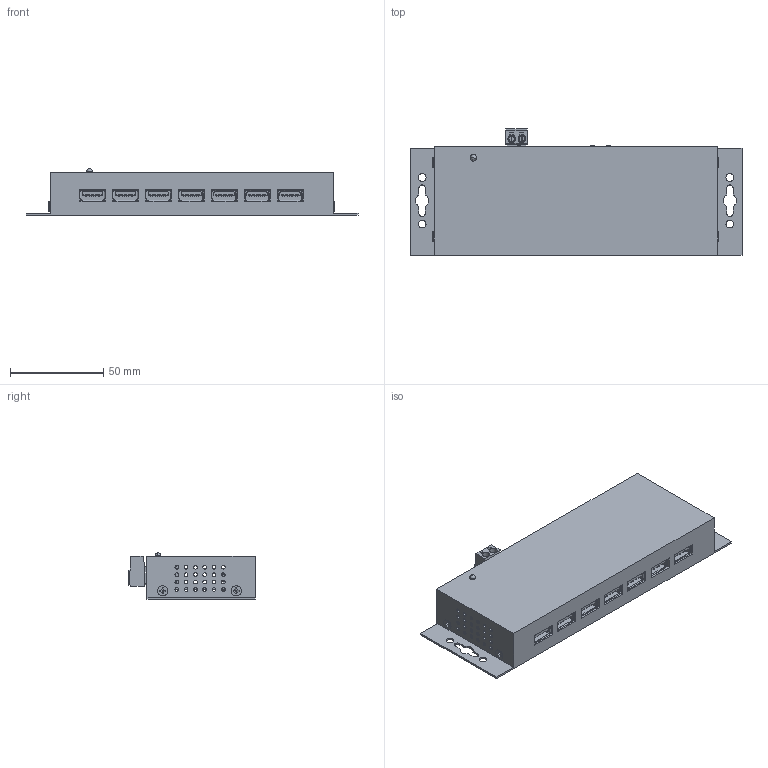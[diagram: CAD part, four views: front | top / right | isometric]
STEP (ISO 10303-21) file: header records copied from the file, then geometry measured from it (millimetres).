
FILE_DESCRIPTION(('FreeCAD Model'),'2;1');
FILE_NAME('X:/Technische Zeichnungen/EX-1188HMS-3/EX-1188HMS-3_3D.step', '2021-10-07T15:40:21',('Author'),(''), 'Open CASCADE STEP processor 7.3','FreeCAD','Unknown');
FILE_SCHEMA(('AUTOMOTIVE_DESIGN { 1 0 10303 214 1 1 1 1 }'));
Products named in the file (1): EX-1188HMS-3_3D
Bounding box: 178.4 x 67.9 x 24.97 mm (x, y, z)
Volume: 52393.2 mm3; surface area: 88960.2 mm2
Topology: 2 solids, 8 shells, 3623 faces, 10631 edges, 7025 vertices
Faces by surface type: plane 2830, cylinder 602, cone 102, torus 69, sphere 14, revolution 6
Full cylindrical faces by diameter (mm): 1.567 x4, 1.8 x1, 2 x52, 2.459 x4, 2.5 x1, 2.6 x8, 3 x5, 3.12 x2, 3.2 x2, 3.3 x4, 3.5 x4, 3.6 x1, 4 x7, 4.2 x4, 5.3 x4, 5.5 x4, 6.4 x1, 8 x1
Entity records: 354242 total; most frequent: CARTESIAN_POINT 126732, DIRECTION 34536, LINE 22906, VECTOR 22906, ORIENTED_EDGE 21234, PCURVE 21234, DEFINITIONAL_REPRESENTATION 21234, EDGE_CURVE 10617
